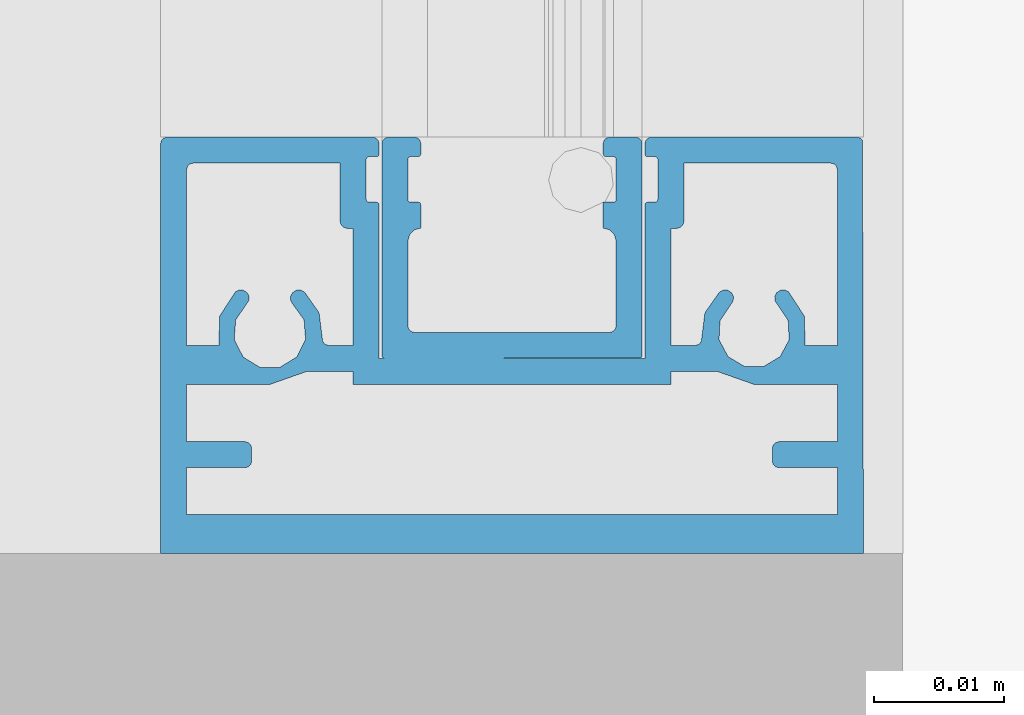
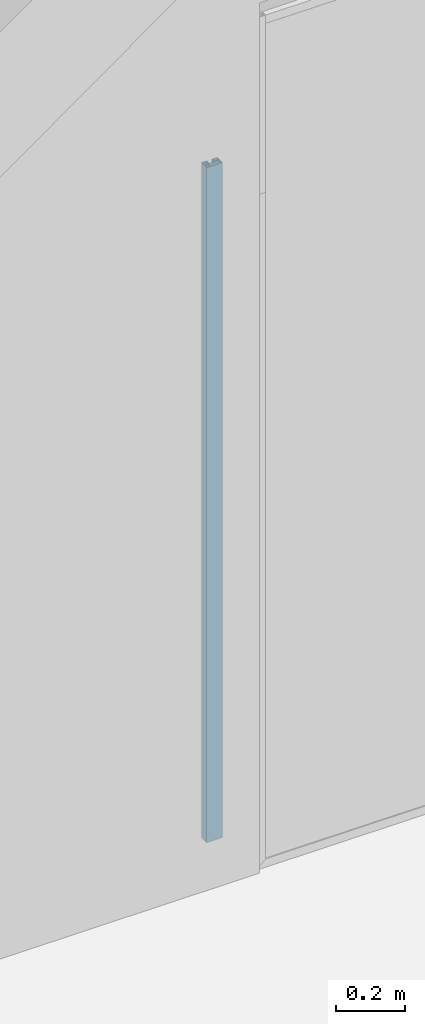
# One storey, part 35 of 387: 1 building element part, 2 elements without a shape of their own.
"""IFC2X3 building model written with IfcOpenShell, lengths in millimetres."""

from ifc_helpers import new_model, entity, si_unit, converted_unit, derived_unit, money_unit, direction, frame, origin_with_axes, place, context, subcontext, project, spatial, faceted_brep, source, transform, mapped, material, type_object, element, aggregate, save


model = new_model("IFC2X3")

# Units and contexts
model_context = context("Model", 3, precision=0.01, world=origin_with_axes(), true_north=direction((0.0, 1.0)))
body_context = subcontext(model_context, "Body", "Model", "MODEL_VIEW")
ifc_project = project(units=[si_unit("LENGTHUNIT", "METRE", prefix="MILLI"), si_unit("AREAUNIT", "SQUARE_METRE"), si_unit("VOLUMEUNIT", "CUBIC_METRE"), converted_unit("PLANEANGLEUNIT", "DEGREE", entity("IfcPlaneAngleMeasure", 0.0174532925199), si_unit("PLANEANGLEUNIT", "RADIAN"), dimensions=[0, 0, 0, 0, 0, 0, 0]), si_unit("SOLIDANGLEUNIT", "STERADIAN"), money_unit("EUR"), converted_unit("TIMEUNIT", "Year", entity("IfcTimeMeasure", 31556926.0), si_unit("TIMEUNIT", "SECOND"), dimensions=[0, 0, 1, 0, 0, 0, 0]), si_unit("MASSUNIT", "GRAM", prefix="KILO"), si_unit("THERMODYNAMICTEMPERATUREUNIT", "DEGREE_CELSIUS"), si_unit("LUMINOUSINTENSITYUNIT", "LUMEN"), si_unit("ENERGYUNIT", "JOULE", prefix="MEGA"), derived_unit("THERMALCONDUCTANCEUNIT", [(si_unit("POWERUNIT", "WATT"), 1), (si_unit("LENGTHUNIT", "METRE"), -1), (si_unit("THERMODYNAMICTEMPERATUREUNIT", "KELVIN"), -1)]), derived_unit("SPECIFICHEATCAPACITYUNIT", [(si_unit("ENERGYUNIT", "JOULE"), 1), (si_unit("MASSUNIT", "GRAM", prefix="KILO"), -1), (si_unit("THERMODYNAMICTEMPERATUREUNIT", "KELVIN"), -1)]), derived_unit("MASSDENSITYUNIT", [(si_unit("MASSUNIT", "GRAM", prefix="KILO"), 1), (si_unit("VOLUMEUNIT", "CUBIC_METRE"), -1)])], contexts=[model_context])

# Site, building, storey
site_placement = place(None, origin_with_axes())
site = spatial("IfcSite", under=ifc_project, at=site_placement, Name="Puškini 31, Narva", CompositionType="ELEMENT")
building_placement = place(site_placement, origin_with_axes())
building = spatial("IfcBuilding", under=site, at=building_placement, Name="Narva Riigigümnaasium", CompositionType="ELEMENT")
storey_placement = place(building_placement, frame((0.0, 0.0, 2640.0), z_axis=(0.0, 0.0, 1.0), x_axis=(1.0, 0.0, 0.0)))
storey = spatial("IfcBuildingStorey", under=building, at=storey_placement, Name="2.korrus +2.64", CompositionType="ELEMENT", Elevation=2640.0)

# Curtain wall, member, building element part
curtain_wall_type = type_object("IfcCurtainWallType", Name="Curtain Wall Type", PredefinedType="NOTDEFINED")
curtain_wall_placement = place(storey_placement, frame((28369.9999994, 164166.500006, -9.21871734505e-06), z_axis=(0.0, 0.0, 1.0), x_axis=(1.0, 0.0, 0.0)))
curtain_wall = element("IfcCurtainWall", 1, at=curtain_wall_placement, inside=storey, type_object=curtain_wall_type, Name="G-SKLF-11")
member_type = type_object("IfcMemberType", Name="32 x 27", PredefinedType="MULLION")
member_placement = place(curtain_wall_placement, frame((-8.29913915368e-09, -466.5, 0.0), z_axis=(0.0, 0.0, 1.0), x_axis=(0.0, -1.0, 0.0)))
member = element("IfcMember", 2, at=member_placement, type_object=member_type, Name="G-SKLF-11-raam", ObjectType="MULLION")
aggregate(curtain_wall, [member])
ifc_material = material(Name="ET-04_Alumiinium")
shared_shape = source(origin_with_axes(), body_context, "Body", "Brep", [
    faceted_brep([(-31.7500000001, 26.9330127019, 0.0), (-31.7500000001, 26.9330127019, 2400.00000922), (0.0, 27.0, 2400.00000922), (0.0, 27.0, 0.0), (-31.933012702, 26.75, 0.0), (-31.933012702, 26.75, 2400.00000922), (-32.0000000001, 26.5, 2400.00000922), (-32.0, 10.7, 2400.00000922), (-31.9330127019, 10.45, 2400.00000922), (-31.75, 10.2669872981, 2400.00000922), (-31.5, 10.2, 2400.00000922), (-30.7, 10.2, 2400.00000922), (-30.6, 10.2267949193, 2400.00000922), (-30.5267949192, 10.3, 2400.00000922), (-30.5, 10.4, 2400.00000922), (-30.5, 11.0, 2400.00000922), (-30.4732050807, 11.1, 2400.00000922), (-30.4, 11.1732050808, 2400.00000922), (-30.3, 11.2, 2400.00000922), (-27.2, 11.2, 2400.00000922), (-27.1, 11.1732050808, 2400.00000922), (-27.0267949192, 11.1, 2400.00000922), (-27.0, 11.0, 2400.00000922), (-27.0, 10.4, 2400.00000922), (-26.9732050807, 10.3, 2400.00000922), (-26.9, 10.2267949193, 2400.00000922), (-26.8, 10.2, 2400.00000922), (-15.0, 10.2, 2400.00000922), (-15.0, 9.79999999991, 2400.00000922), (-15.0, -9.80000000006, 2400.00000922), (-15.0, -10.2, 2400.00000922), (-26.7999999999, -10.2000000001, 2400.00000922), (-26.8999999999, -10.2267949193, 2400.00000922), (-26.9732050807, -10.3000000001, 2400.00000922), (-27.0, -10.4000000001, 2400.00000922), (-27.0, -11.0, 2400.00000922), (-27.0267949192, -11.1, 2400.00000922), (-27.1, -11.1732050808, 2400.00000922), (-27.2, -11.2, 2400.00000922), (-30.3, -11.2, 2400.00000922), (-30.4, -11.1732050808, 2400.00000922), (-30.4732050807, -11.1, 2400.00000922), (-30.5, -11.0, 2400.00000922), (-30.5, -10.4, 2400.00000922), (-30.5267949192, -10.3, 2400.00000922), (-30.6, -10.2267949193, 2400.00000922), (-30.7, -10.2, 2400.00000922), (-31.5, -10.2, 2400.00000922), (-31.75, -10.2669872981, 2400.00000922), (-31.9330127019, -10.45, 2400.00000922), (-32.0, -10.7000000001, 2400.00000922), (-32.0, -26.5, 2400.00000922), (-31.9330127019, -26.75, 2400.00000922), (-31.75, -26.9330127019, 2400.00000922), (-31.5, -27.0, 2400.00000922), (0.0, -27.0, 2400.00000922), (-3.0, -25.0, 2400.00000922), (-6.60000000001, -25.0, 2400.00000922), (-6.60000000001, -20.5, 2400.00000922), (-6.66698729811, -20.25, 2400.00000922), (-6.85, -20.0669872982, 2400.00000922), (-7.10000000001, -20.0000000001, 2400.00000922), (-8.09999999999, -20.0, 2400.00000922), (-8.34999999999, -20.0669872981, 2400.00000922), (-8.53301270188, -20.25, 2400.00000922), (-8.59999999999, -20.5, 2400.00000922), (-8.59999999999, -25.0, 2400.00000922), (-13.0, -25.0, 2400.00000922), (-13.0, -18.6, 2400.00000922), (-13.8901098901, -16.0667028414, 2400.00000922), (-14.0, -15.7539501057, 2400.00000922), (-14.0, -12.2, 2400.00000922), (-13.0, -12.2, 2400.00000922), (-13.0, 12.2, 2400.00000922), (-14.0, 12.2, 2400.00000922), (-14.0, 15.7539501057, 2400.00000922), (-13.8901098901, 16.0667028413, 2400.00000922), (-13.0, 18.6, 2400.00000922), (-13.0, 25.0, 2400.00000922), (-8.59999999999, 25.0, 2400.00000922), (-8.59999999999, 20.5, 2400.00000922), (-8.53301270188, 20.25, 2400.00000922), (-8.34999999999, 20.0669872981, 2400.00000922), (-8.09999999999, 20.0, 2400.00000922), (-7.1, 20.0, 2400.00000922), (-6.85, 20.0669872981, 2400.00000922), (-6.66698729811, 20.25, 2400.00000922), (-6.6, 20.5, 2400.00000922), (-6.6, 25.0, 2400.00000922), (-3.00000000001, 25.0, 2400.00000922), (-19.476186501, -20.1957226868, 2400.00000922), (-19.7983760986, -20.2065593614, 2400.00000922), (-20.0757343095, -20.3708639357, 2400.00000922), (-20.2400388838, -20.6482221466, 2400.00000922), (-20.2508755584, -20.9704117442, 2400.00000922), (-20.1055788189, -21.2581832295, 2400.00000922), (-18.2324976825, -22.4735254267, 2400.00000922), (-16.0, -22.5115214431, 2400.00000922), (-16.0, -25.0, 2400.00000922), (-29.4999999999, -25.0, 2400.00000922), (-29.7499999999, -24.9330127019, 2400.00000922), (-29.9330127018, -24.75, 2400.00000922), (-29.9999999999, -24.5, 2400.00000922), (-30.0, -13.2, 2400.00000922), (-25.5, -13.2, 2400.00000922), (-25.25, -13.1330127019, 2400.00000922), (-25.0669872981, -12.95, 2400.00000922), (-25.0, -12.7, 2400.00000922), (-25.0, -12.2, 2400.00000922), (-16.0, -12.2, 2400.00000922), (-16.0, -14.0833640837, 2400.00000922), (-16.0774356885, -14.3506455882, 2400.00000922), (-16.2857576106, -14.5351385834, 2400.00000922), (-16.5604395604, -14.5796977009, 2400.00000922), (-18.5025683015, -14.8194517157, 2400.00000922), (-20.1055788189, -15.9418167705, 2400.00000922), (-20.2539421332, -16.2300731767, 2400.00000922), (-20.2446330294, -16.5541360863, 2400.00000922), (-20.0799669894, -16.8334003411, 2400.00000922), (-19.8009019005, -16.9984036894, 2400.00000922), (-19.4768504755, -17.0081043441, 2400.00000922), (-19.1884150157, -16.8600894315, 2400.00000922), (-17.9594363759, -15.9748438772, 2400.00000922), (-16.4491363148, -15.8606426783, 2400.00000922), (-15.101017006, -16.5510212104, 2400.00000922), (-14.3109559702, -17.8432486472, 2400.00000922), (-14.3109559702, -19.3578602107, 2400.00000922), (-15.101017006, -20.6500876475, 2400.00000922), (-16.4491363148, -21.3404661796, 2400.00000922), (-17.9594363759, -21.2262649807, 2400.00000922), (-19.4040597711, 16.9891590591, 2400.00000922), (-19.7431334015, 17.0156698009, 2400.00000922), (-20.0491908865, 16.8673371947, 2400.00000922), (-20.2384633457, 16.5847603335, 2400.00000922), (-20.2591463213, 16.2452813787, 2400.00000922), (-20.1055788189, 15.9418167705, 2400.00000922), (-18.5025683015, 14.8194517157, 2400.00000922), (-16.5604395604, 14.5796977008, 2400.00000922), (-16.2857576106, 14.5351385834, 2400.00000922), (-16.0774356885, 14.3506455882, 2400.00000922), (-16.0, 14.0833640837, 2400.00000922), (-16.0, 12.2, 2400.00000922), (-25.0, 12.2, 2400.00000922), (-25.0, 12.7, 2400.00000922), (-25.0669872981, 12.95, 2400.00000922), (-25.25, 13.1330127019, 2400.00000922), (-25.5, 13.2, 2400.00000922), (-30.0, 13.2, 2400.00000922), (-30.0, 24.5, 2400.00000922), (-29.9330127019, 24.75, 2400.00000922), (-29.75, 24.9330127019, 2400.00000922), (-29.5, 25.0, 2400.00000922), (-16.0, 25.0, 2400.00000922), (-16.0, 22.5115214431, 2400.00000922), (-18.2324976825, 22.4735254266, 2400.00000922), (-20.1055788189, 21.2581832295, 2400.00000922), (-20.2586063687, 20.9548173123, 2400.00000922), (-20.2376817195, 20.6156853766, 2400.00000922), (-20.0485211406, 20.3334326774, 2400.00000922), (-19.7428001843, 20.185166, 2400.00000922), (-19.4040367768, 20.2113893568, 2400.00000922), (-19.1247754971, 20.4049389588, 2400.00000922), (-17.9010883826, 21.2200171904, 2400.00000922), (-16.4324884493, 21.290564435, 2400.00000922), (-15.1363081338, 20.5965332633, 2400.00000922), (-14.3808833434, 19.3351466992, 2400.00000922), (-14.3808833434, 17.8648533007, 2400.00000922), (-15.1363081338, 16.6034667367, 2400.00000922), (-16.4324884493, 15.9094355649, 2400.00000922), (-17.9010883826, 15.9799828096, 2400.00000922), (0.0, -27.0, 0.0), (-31.5, -27.0, 0.0), (-31.75, -26.9330127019, 0.0), (-31.9330127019, -26.75, 0.0), (-32.0, -26.5, 0.0), (-32.0, -10.7000000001, 0.0), (-31.9330127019, -10.45, 0.0), (-31.75, -10.2669872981, 0.0), (-31.5, -10.2, 0.0), (-30.7, -10.2, 0.0), (-30.6, -10.2267949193, 0.0), (-30.5267949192, -10.3, 0.0), (-30.5, -10.4, 0.0), (-30.5, -11.0, 0.0), (-30.4732050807, -11.1, 0.0), (-30.4, -11.1732050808, 0.0), (-30.3, -11.2, 0.0), (-27.2, -11.2, 0.0), (-27.1, -11.1732050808, 0.0), (-27.0267949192, -11.1, 0.0), (-27.0, -11.0, 0.0), (-27.0, -10.4000000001, 0.0), (-26.9732050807, -10.3000000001, 0.0), (-26.8999999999, -10.2267949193, 0.0), (-26.7999999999, -10.2000000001, 0.0), (-15.0, -10.2, 0.0), (-15.0, -9.80000000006, 0.0), (-15.0, 9.79999999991, 0.0), (-15.0, 10.2, 0.0), (-26.8, 10.2, 0.0), (-26.9, 10.2267949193, 0.0), (-26.9732050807, 10.3, 0.0), (-27.0, 10.4, 0.0), (-27.0, 11.0, 0.0), (-27.0267949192, 11.1, 0.0), (-27.1, 11.1732050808, 0.0), (-27.2, 11.2, 0.0), (-30.3, 11.2, 0.0), (-30.4, 11.1732050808, 0.0), (-30.4732050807, 11.1, 0.0), (-30.5, 11.0, 0.0), (-30.5, 10.4, 0.0), (-30.5267949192, 10.3, 0.0), (-30.6, 10.2267949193, 0.0), (-30.7, 10.2, 0.0), (-31.5, 10.2, 0.0), (-31.75, 10.2669872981, 0.0), (-31.9330127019, 10.45, 0.0), (-32.0, 10.7, 0.0), (-32.0000000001, 26.5, 0.0), (-3.0, -25.0, 0.0), (-3.00000000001, 25.0, 0.0), (-6.6, 25.0, 0.0), (-6.6, 20.5, 0.0), (-6.66698729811, 20.25, 0.0), (-6.85, 20.0669872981, 0.0), (-7.1, 20.0, 0.0), (-8.09999999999, 20.0, 0.0), (-8.34999999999, 20.0669872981, 0.0), (-8.53301270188, 20.25, 0.0), (-8.59999999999, 20.5, 0.0), (-8.59999999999, 25.0, 0.0), (-13.0, 25.0, 0.0), (-13.0, 18.6, 0.0), (-13.8901098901, 16.0667028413, 0.0), (-14.0, 15.7539501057, 0.0), (-14.0, 12.2, 0.0), (-13.0, 12.2, 0.0), (-13.0, -12.2, 0.0), (-14.0, -12.2, 0.0), (-14.0, -15.7539501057, 0.0), (-13.8901098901, -16.0667028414, 0.0), (-13.0, -18.6, 0.0), (-13.0, -25.0, 0.0), (-8.59999999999, -25.0, 0.0), (-8.59999999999, -20.5, 0.0), (-8.53301270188, -20.25, 0.0), (-8.34999999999, -20.0669872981, 0.0), (-8.09999999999, -20.0, 0.0), (-7.10000000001, -20.0000000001, 0.0), (-6.85, -20.0669872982, 0.0), (-6.66698729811, -20.25, 0.0), (-6.60000000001, -20.5, 0.0), (-6.60000000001, -25.0, 0.0), (-19.476186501, -20.1957226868, 0.0), (-17.9594363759, -21.2262649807, 0.0), (-16.4491363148, -21.3404661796, 0.0), (-15.101017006, -20.6500876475, 0.0), (-14.3109559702, -19.3578602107, 0.0), (-14.3109559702, -17.8432486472, 0.0), (-15.101017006, -16.5510212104, 0.0), (-16.4491363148, -15.8606426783, 0.0), (-17.9594363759, -15.9748438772, 0.0), (-19.1884150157, -16.8600894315, 0.0), (-19.4768504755, -17.0081043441, 0.0), (-19.8009019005, -16.9984036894, 0.0), (-20.0799669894, -16.8334003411, 0.0), (-20.2446330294, -16.5541360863, 0.0), (-20.2539421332, -16.2300731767, 0.0), (-20.1055788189, -15.9418167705, 0.0), (-18.5025683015, -14.8194517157, 0.0), (-16.5604395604, -14.5796977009, 0.0), (-16.2857576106, -14.5351385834, 0.0), (-16.0774356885, -14.3506455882, 0.0), (-16.0, -14.0833640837, 0.0), (-16.0, -12.2, 0.0), (-25.0, -12.2, 0.0), (-25.0, -12.7, 0.0), (-25.0669872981, -12.95, 0.0), (-25.25, -13.1330127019, 0.0), (-25.5, -13.2, 0.0), (-30.0, -13.2, 0.0), (-29.9999999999, -24.5, 0.0), (-29.9330127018, -24.75, 0.0), (-29.7499999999, -24.9330127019, 0.0), (-29.4999999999, -25.0, 0.0), (-16.0, -25.0, 0.0), (-16.0, -22.5115214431, 0.0), (-18.2324976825, -22.4735254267, 0.0), (-20.1055788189, -21.2581832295, 0.0), (-20.2508755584, -20.9704117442, 0.0), (-20.2400388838, -20.6482221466, 0.0), (-20.0757343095, -20.3708639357, 0.0), (-19.7983760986, -20.2065593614, 0.0), (-19.4040597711, 16.9891590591, 0.0), (-17.9010883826, 15.9799828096, 0.0), (-16.4324884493, 15.9094355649, 0.0), (-15.1363081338, 16.6034667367, 0.0), (-14.3808833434, 17.8648533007, 0.0), (-14.3808833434, 19.3351466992, 0.0), (-15.1363081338, 20.5965332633, 0.0), (-16.4324884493, 21.290564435, 0.0), (-17.9010883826, 21.2200171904, 0.0), (-19.1247754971, 20.4049389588, 0.0), (-19.4040367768, 20.2113893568, 0.0), (-19.7428001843, 20.185166, 0.0), (-20.0485211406, 20.3334326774, 0.0), (-20.2376817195, 20.6156853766, 0.0), (-20.2586063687, 20.9548173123, 0.0), (-20.1055788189, 21.2581832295, 0.0), (-18.2324976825, 22.4735254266, 0.0), (-16.0, 22.5115214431, 0.0), (-16.0, 25.0, 0.0), (-29.5, 25.0, 0.0), (-29.75, 24.9330127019, 0.0), (-29.9330127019, 24.75, 0.0), (-30.0, 24.5, 0.0), (-30.0, 13.2, 0.0), (-25.5, 13.2, 0.0), (-25.25, 13.1330127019, 0.0), (-25.0669872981, 12.95, 0.0), (-25.0, 12.7, 0.0), (-25.0, 12.2, 0.0), (-16.0, 12.2, 0.0), (-16.0, 14.0833640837, 0.0), (-16.0774356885, 14.3506455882, 0.0), (-16.2857576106, 14.5351385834, 0.0), (-16.5604395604, 14.5796977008, 0.0), (-18.5025683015, 14.8194517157, 0.0), (-20.1055788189, 15.9418167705, 0.0), (-20.2591463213, 16.2452813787, 0.0), (-20.2384633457, 16.5847603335, 0.0), (-20.0491908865, 16.8673371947, 0.0), (-19.7431334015, 17.0156698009, 0.0)], [[[0, 1, 2, 3]], [[4, 5, 1, 0]], [[1, 5, 6, 7, 8, 9, 10, 11, 12, 13, 14, 15, 16, 17, 18, 19, 20, 21, 22, 23, 24, 25, 26, 27, 28, 29, 30, 31, 32, 33, 34, 35, 36, 37, 38, 39, 40, 41, 42, 43, 44, 45, 46, 47, 48, 49, 50, 51, 52, 53, 54, 55, 2], [56, 57, 58, 59, 60, 61, 62, 63, 64, 65, 66, 67, 68, 69, 70, 71, 72, 73, 74, 75, 76, 77, 78, 79, 80, 81, 82, 83, 84, 85, 86, 87, 88, 89], [90, 91, 92, 93, 94, 95, 96, 97, 98, 99, 100, 101, 102, 103, 104, 105, 106, 107, 108, 109, 110, 111, 112, 113, 114, 115, 116, 117, 118, 119, 120, 121, 122, 123, 124, 125, 126, 127, 128, 129], [130, 131, 132, 133, 134, 135, 136, 137, 138, 139, 140, 141, 142, 143, 144, 145, 146, 147, 148, 149, 150, 151, 152, 153, 154, 155, 156, 157, 158, 159, 160, 161, 162, 163, 164, 165, 166, 167, 168, 169]], [[3, 2, 55, 170]], [[0, 3, 170, 171, 172, 173, 174, 175, 176, 177, 178, 179, 180, 181, 182, 183, 184, 185, 186, 187, 188, 189, 190, 191, 192, 193, 194, 195, 196, 197, 198, 199, 200, 201, 202, 203, 204, 205, 206, 207, 208, 209, 210, 211, 212, 213, 214, 215, 216, 217, 218, 219, 4], [220, 221, 222, 223, 224, 225, 226, 227, 228, 229, 230, 231, 232, 233, 234, 235, 236, 237, 238, 239, 240, 241, 242, 243, 244, 245, 246, 247, 248, 249, 250, 251, 252, 253], [254, 255, 256, 257, 258, 259, 260, 261, 262, 263, 264, 265, 266, 267, 268, 269, 270, 271, 272, 273, 274, 275, 276, 277, 278, 279, 280, 281, 282, 283, 284, 285, 286, 287, 288, 289, 290, 291, 292, 293], [294, 295, 296, 297, 298, 299, 300, 301, 302, 303, 304, 305, 306, 307, 308, 309, 310, 311, 312, 313, 314, 315, 316, 317, 318, 319, 320, 321, 322, 323, 324, 325, 326, 327, 328, 329, 330, 331, 332, 333]], [[219, 6, 5, 4]], [[218, 7, 6, 219]], [[217, 8, 7, 218]], [[216, 9, 8, 217]], [[215, 10, 9, 216]], [[214, 11, 10, 215]], [[213, 12, 11, 214]], [[212, 13, 12, 213]], [[211, 14, 13, 212]], [[210, 15, 14, 211]], [[209, 16, 15, 210]], [[208, 17, 16, 209]], [[207, 18, 17, 208]], [[206, 19, 18, 207]], [[205, 20, 19, 206]], [[204, 21, 20, 205]], [[203, 22, 21, 204]], [[202, 23, 22, 203]], [[201, 24, 23, 202]], [[200, 25, 24, 201]], [[199, 26, 25, 200]], [[198, 27, 26, 199]], [[197, 28, 27, 198]], [[196, 29, 28, 197]], [[195, 30, 29, 196]], [[194, 31, 30, 195]], [[193, 32, 31, 194]], [[192, 33, 32, 193]], [[191, 34, 33, 192]], [[190, 35, 34, 191]], [[189, 36, 35, 190]], [[188, 37, 36, 189]], [[187, 38, 37, 188]], [[186, 39, 38, 187]], [[185, 40, 39, 186]], [[184, 41, 40, 185]], [[183, 42, 41, 184]], [[182, 43, 42, 183]], [[181, 44, 43, 182]], [[180, 45, 44, 181]], [[179, 46, 45, 180]], [[178, 47, 46, 179]], [[177, 48, 47, 178]], [[176, 49, 48, 177]], [[175, 50, 49, 176]], [[174, 51, 50, 175]], [[173, 52, 51, 174]], [[172, 53, 52, 173]], [[171, 54, 53, 172]], [[170, 55, 54, 171]], [[253, 57, 56, 220]], [[252, 58, 57, 253]], [[251, 59, 58, 252]], [[250, 60, 59, 251]], [[249, 61, 60, 250]], [[248, 62, 61, 249]], [[247, 63, 62, 248]], [[246, 64, 63, 247]], [[245, 65, 64, 246]], [[244, 66, 65, 245]], [[243, 67, 66, 244]], [[242, 68, 67, 243]], [[241, 69, 68, 242]], [[240, 70, 69, 241]], [[239, 71, 70, 240]], [[238, 72, 71, 239]], [[237, 73, 72, 238]], [[236, 74, 73, 237]], [[235, 75, 74, 236]], [[234, 76, 75, 235]], [[233, 77, 76, 234]], [[232, 78, 77, 233]], [[231, 79, 78, 232]], [[230, 80, 79, 231]], [[229, 81, 80, 230]], [[228, 82, 81, 229]], [[227, 83, 82, 228]], [[226, 84, 83, 227]], [[225, 85, 84, 226]], [[224, 86, 85, 225]], [[223, 87, 86, 224]], [[222, 88, 87, 223]], [[221, 89, 88, 222]], [[220, 56, 89, 221]], [[293, 91, 90, 254]], [[292, 92, 91, 293]], [[291, 93, 92, 292]], [[290, 94, 93, 291]], [[289, 95, 94, 290]], [[288, 96, 95, 289]], [[287, 97, 96, 288]], [[286, 98, 97, 287]], [[285, 99, 98, 286]], [[284, 100, 99, 285]], [[283, 101, 100, 284]], [[282, 102, 101, 283]], [[281, 103, 102, 282]], [[280, 104, 103, 281]], [[279, 105, 104, 280]], [[278, 106, 105, 279]], [[277, 107, 106, 278]], [[276, 108, 107, 277]], [[275, 109, 108, 276]], [[274, 110, 109, 275]], [[273, 111, 110, 274]], [[272, 112, 111, 273]], [[271, 113, 112, 272]], [[270, 114, 113, 271]], [[269, 115, 114, 270]], [[268, 116, 115, 269]], [[267, 117, 116, 268]], [[266, 118, 117, 267]], [[265, 119, 118, 266]], [[264, 120, 119, 265]], [[263, 121, 120, 264]], [[262, 122, 121, 263]], [[261, 123, 122, 262]], [[260, 124, 123, 261]], [[259, 125, 124, 260]], [[258, 126, 125, 259]], [[257, 127, 126, 258]], [[256, 128, 127, 257]], [[255, 129, 128, 256]], [[254, 90, 129, 255]], [[333, 131, 130, 294]], [[332, 132, 131, 333]], [[331, 133, 132, 332]], [[330, 134, 133, 331]], [[329, 135, 134, 330]], [[328, 136, 135, 329]], [[327, 137, 136, 328]], [[326, 138, 137, 327]], [[325, 139, 138, 326]], [[324, 140, 139, 325]], [[323, 141, 140, 324]], [[322, 142, 141, 323]], [[321, 143, 142, 322]], [[320, 144, 143, 321]], [[319, 145, 144, 320]], [[318, 146, 145, 319]], [[317, 147, 146, 318]], [[316, 148, 147, 317]], [[315, 149, 148, 316]], [[314, 150, 149, 315]], [[313, 151, 150, 314]], [[312, 152, 151, 313]], [[311, 153, 152, 312]], [[310, 154, 153, 311]], [[309, 155, 154, 310]], [[308, 156, 155, 309]], [[307, 157, 156, 308]], [[306, 158, 157, 307]], [[305, 159, 158, 306]], [[304, 160, 159, 305]], [[303, 161, 160, 304]], [[302, 162, 161, 303]], [[301, 163, 162, 302]], [[300, 164, 163, 301]], [[299, 165, 164, 300]], [[298, 166, 165, 299]], [[297, 167, 166, 298]], [[296, 168, 167, 297]], [[295, 169, 168, 296]], [[294, 130, 169, 295]]]),
    faceted_brep([(-15.0267949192, 9.89999999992, 0.0), (-15.0267949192, 9.89999999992, 2400.00000922), (-15.0, -9.80000000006, 2400.00000922), (-15.0, -9.80000000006, 0.0), (-15.1, 9.97320508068, 0.0), (-15.1, 9.97320508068, 2400.00000922), (-15.2, 9.99999999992, 2400.00000922), (-31.5, 9.99999999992, 2400.00000922), (-31.75, 9.93301270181, 2400.00000922), (-31.9330127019, 9.74999999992, 2400.00000922), (-32.0, 9.49999999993, 2400.00000922), (-32.0, 7.49999999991, 2400.00000922), (-31.9330127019, 7.24999999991, 2400.00000922), (-31.75, 7.06698729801, 2400.00000922), (-31.5, 6.99999999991, 2400.00000922), (-30.7, 6.99999999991, 2400.00000922), (-30.6, 7.02679491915, 2400.00000922), (-30.5267949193, 7.09999999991, 2400.00000922), (-30.5, 7.19999999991, 2400.00000922), (-30.5, 7.79999999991, 2400.00000922), (-30.4732050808, 7.89999999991, 2400.00000922), (-30.4, 7.97320508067, 2400.00000922), (-30.3, 7.99999999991, 2400.00000922), (-27.2, 7.99999999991, 2400.00000922), (-27.1, 7.97320508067, 2400.00000922), (-27.0267949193, 7.89999999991, 2400.00000922), (-27.0, 7.7999999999, 2400.00000922), (-27.0, 7.14458303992, 2400.00000922), (-27.0, 6.99999999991, 2400.00000922), (-26.856872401, 6.99999999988, 2400.00000922), (-25.0092559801, 6.99999999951, 2400.00000922), (-24.8752813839, 7.49999999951, 2400.00000922), (-24.5092559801, 7.8660254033, 2400.00000922), (-24.0092559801, 7.99999999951, 2400.00000922), (-17.5, 7.99999999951, 2400.00000922), (-17.25, 7.9330127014, 2400.00000922), (-17.0669872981, 7.74999999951, 2400.00000922), (-17.0, 7.4999999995, 2400.00000922), (-17.0, -7.49999999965, 2400.00000922), (-17.0669872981, -7.74999999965, 2400.00000922), (-17.25, -7.93301270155, 2400.00000922), (-17.5, -7.99999999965, 2400.00000922), (-24.0092559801, -7.99999999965, 2400.00000922), (-24.5092559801, -7.86602540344, 2400.00000922), (-24.8752813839, -7.49999999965, 2400.00000922), (-25.0092559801, -6.99999999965, 2400.00000922), (-26.8, -7.0000000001, 2400.00000922), (-26.9, -7.02679491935, 2400.00000922), (-26.9732050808, -7.10000000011, 2400.00000922), (-27.0, -7.20000000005, 2400.00000922), (-27.0, -7.80000000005, 2400.00000922), (-27.0267949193, -7.90000000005, 2400.00000922), (-27.1, -7.97320508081, 2400.00000922), (-27.2, -8.00000000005, 2400.00000922), (-30.3, -8.00000000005, 2400.00000922), (-30.4, -7.97320508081, 2400.00000922), (-30.4732050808, -7.90000000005, 2400.00000922), (-30.5, -7.80000000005, 2400.00000922), (-30.5, -7.20000000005, 2400.00000922), (-30.5267949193, -7.10000000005, 2400.00000922), (-30.6, -7.02679491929, 2400.00000922), (-30.7, -7.00000000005, 2400.00000922), (-31.5, -7.00000000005, 2400.00000922), (-31.75, -7.06698729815, 2400.00000922), (-31.9330127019, -7.25000000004, 2400.00000922), (-32.0, -7.50000000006, 2400.00000922), (-32.0, -9.50000000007, 2400.00000922), (-31.9330127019, -9.75000000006, 2400.00000922), (-31.75, -9.93301270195, 2400.00000922), (-31.5, -10.0000000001, 2400.00000922), (-15.2, -10.0000000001, 2400.00000922), (-15.1, -9.97320508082, 2400.00000922), (-15.0267949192, -9.90000000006, 2400.00000922), (-15.0267949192, -9.90000000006, 0.0), (-15.1, -9.97320508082, 0.0), (-15.2, -10.0000000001, 0.0), (-31.5, -10.0000000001, 0.0), (-31.75, -9.93301270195, 0.0), (-31.9330127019, -9.75000000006, 0.0), (-32.0, -9.50000000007, 0.0), (-32.0, -7.50000000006, 0.0), (-31.9330127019, -7.25000000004, 0.0), (-31.75, -7.06698729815, 0.0), (-31.5, -7.00000000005, 0.0), (-30.7, -7.00000000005, 0.0), (-30.6, -7.02679491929, 0.0), (-30.5267949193, -7.10000000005, 0.0), (-30.5, -7.20000000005, 0.0), (-30.5, -7.80000000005, 0.0), (-30.4732050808, -7.90000000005, 0.0), (-30.4, -7.97320508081, 0.0), (-30.3, -8.00000000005, 0.0), (-27.2, -8.00000000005, 0.0), (-27.1, -7.97320508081, 0.0), (-27.0267949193, -7.90000000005, 0.0), (-27.0, -7.80000000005, 0.0), (-27.0, -7.20000000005, 0.0), (-26.9732050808, -7.10000000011, 0.0), (-26.9, -7.02679491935, 0.0), (-26.8, -7.0000000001, 0.0), (-25.0092559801, -6.99999999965, 0.0), (-24.8752813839, -7.49999999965, 0.0), (-24.5092559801, -7.86602540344, 0.0), (-24.0092559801, -7.99999999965, 0.0), (-17.5, -7.99999999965, 0.0), (-17.25, -7.93301270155, 0.0), (-17.0669872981, -7.74999999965, 0.0), (-17.0, -7.49999999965, 0.0), (-17.0, 7.4999999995, 0.0), (-17.0669872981, 7.74999999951, 0.0), (-17.25, 7.9330127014, 0.0), (-17.5, 7.99999999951, 0.0), (-24.0092559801, 7.99999999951, 0.0), (-24.5092559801, 7.8660254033, 0.0), (-24.8752813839, 7.49999999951, 0.0), (-25.0092559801, 6.99999999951, 0.0), (-26.856872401, 6.99999999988, 0.0), (-27.0, 6.99999999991, 0.0), (-27.0, 7.14458303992, 0.0), (-27.0, 7.7999999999, 0.0), (-27.0267949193, 7.89999999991, 0.0), (-27.1, 7.97320508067, 0.0), (-27.2, 7.99999999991, 0.0), (-30.3, 7.99999999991, 0.0), (-30.4, 7.97320508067, 0.0), (-30.4732050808, 7.89999999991, 0.0), (-30.5, 7.79999999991, 0.0), (-30.5, 7.19999999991, 0.0), (-30.5267949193, 7.09999999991, 0.0), (-30.6, 7.02679491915, 0.0), (-30.7, 6.99999999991, 0.0), (-31.5, 6.99999999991, 0.0), (-31.75, 7.06698729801, 0.0), (-31.9330127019, 7.24999999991, 0.0), (-32.0, 7.49999999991, 0.0), (-32.0, 9.49999999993, 0.0), (-31.9330127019, 9.74999999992, 0.0), (-31.75, 9.93301270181, 0.0), (-31.5, 9.99999999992, 0.0), (-15.2, 9.99999999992, 0.0)], [[[0, 1, 2, 3]], [[4, 5, 1, 0]], [[1, 5, 6, 7, 8, 9, 10, 11, 12, 13, 14, 15, 16, 17, 18, 19, 20, 21, 22, 23, 24, 25, 26, 27, 28, 29, 30, 31, 32, 33, 34, 35, 36, 37, 38, 39, 40, 41, 42, 43, 44, 45, 46, 47, 48, 49, 50, 51, 52, 53, 54, 55, 56, 57, 58, 59, 60, 61, 62, 63, 64, 65, 66, 67, 68, 69, 70, 71, 72, 2]], [[3, 2, 72, 73]], [[0, 3, 73, 74, 75, 76, 77, 78, 79, 80, 81, 82, 83, 84, 85, 86, 87, 88, 89, 90, 91, 92, 93, 94, 95, 96, 97, 98, 99, 100, 101, 102, 103, 104, 105, 106, 107, 108, 109, 110, 111, 112, 113, 114, 115, 116, 117, 118, 119, 120, 121, 122, 123, 124, 125, 126, 127, 128, 129, 130, 131, 132, 133, 134, 135, 136, 137, 138, 139, 4]], [[139, 6, 5, 4]], [[138, 7, 6, 139]], [[137, 8, 7, 138]], [[136, 9, 8, 137]], [[135, 10, 9, 136]], [[134, 11, 10, 135]], [[133, 12, 11, 134]], [[132, 13, 12, 133]], [[131, 14, 13, 132]], [[130, 15, 14, 131]], [[129, 16, 15, 130]], [[128, 17, 16, 129]], [[127, 18, 17, 128]], [[126, 19, 18, 127]], [[125, 20, 19, 126]], [[124, 21, 20, 125]], [[123, 22, 21, 124]], [[122, 23, 22, 123]], [[121, 24, 23, 122]], [[120, 25, 24, 121]], [[119, 26, 25, 120]], [[118, 27, 26, 119]], [[117, 28, 27, 118]], [[116, 29, 28, 117]], [[115, 30, 29, 116]], [[114, 31, 30, 115]], [[113, 32, 31, 114]], [[112, 33, 32, 113]], [[111, 34, 33, 112]], [[110, 35, 34, 111]], [[109, 36, 35, 110]], [[108, 37, 36, 109]], [[107, 38, 37, 108]], [[106, 39, 38, 107]], [[105, 40, 39, 106]], [[104, 41, 40, 105]], [[103, 42, 41, 104]], [[102, 43, 42, 103]], [[101, 44, 43, 102]], [[100, 45, 44, 101]], [[99, 46, 45, 100]], [[98, 47, 46, 99]], [[97, 48, 47, 98]], [[96, 49, 48, 97]], [[95, 50, 49, 96]], [[94, 51, 50, 95]], [[93, 52, 51, 94]], [[92, 53, 52, 93]], [[91, 54, 53, 92]], [[90, 55, 54, 91]], [[89, 56, 55, 90]], [[88, 57, 56, 89]], [[87, 58, 57, 88]], [[86, 59, 58, 87]], [[85, 60, 59, 86]], [[84, 61, 60, 85]], [[83, 62, 61, 84]], [[82, 63, 62, 83]], [[81, 64, 63, 82]], [[80, 65, 64, 81]], [[79, 66, 65, 80]], [[78, 67, 66, 79]], [[77, 68, 67, 78]], [[76, 69, 68, 77]], [[75, 70, 69, 76]], [[74, 71, 70, 75]], [[73, 72, 71, 74]]]),
])
building_element_part_placement = place(member_placement, origin_with_axes())
building_element_part = element("IfcBuildingElementPart", 3, at=building_element_part_placement, material=ifc_material, Name="ET-04_Alumiinium", context=body_context, shape_type="MappedRepresentation", body=[
    mapped(shared_shape, transform((0.0, 0.0, 0.0))),
])
aggregate(member, [building_element_part])

save(model, "model.ifc")
